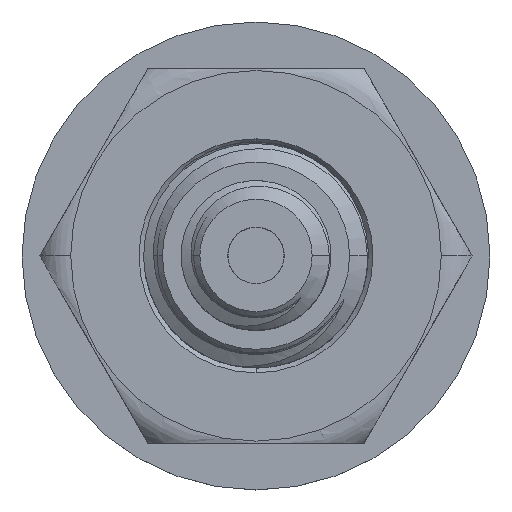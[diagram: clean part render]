
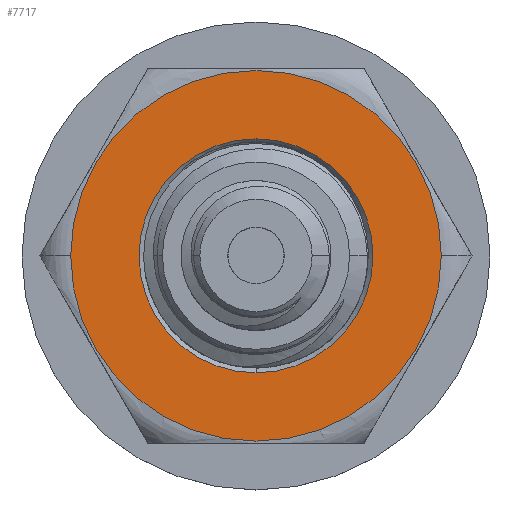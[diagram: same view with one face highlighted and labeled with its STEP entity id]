
A CAD part, top view. The second image highlights one B-rep face of the part: STEP entity #7717.
In plain terms, the highlighted planar face has unit normal (0, 0, 1) as drawn and (0, 1, 0) by its records, which use the part's own axes.
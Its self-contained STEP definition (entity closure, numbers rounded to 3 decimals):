
#16 = ORIENTED_EDGE ( 'NONE', *, *, #2490, .F. ) ;
#101 = DIRECTION ( 'NONE',  ( 0., 0., 1. ) ) ;
#678 = ORIENTED_EDGE ( 'NONE', *, *, #3512, .F. ) ;
#702 = EDGE_LOOP ( 'NONE', ( #3050, #2004 ) ) ;
#743 = PLANE ( 'NONE',  #3544 ) ;
#784 = CARTESIAN_POINT ( 'NONE',  ( 4.95, 2.5, 0. ) ) ;
#888 = DIRECTION ( 'NONE',  ( 1., 0., 0. ) ) ;
#994 = EDGE_CURVE ( 'NONE', #3875, #1866, #6393, .T. ) ;
#1384 = DIRECTION ( 'NONE',  ( 1., 0., 0. ) ) ;
#1503 = CARTESIAN_POINT ( 'NONE',  ( 0., 2.5, 3.125 ) ) ;
#1834 = CIRCLE ( 'NONE', #4297, 4.95 ) ;
#1866 = VERTEX_POINT ( 'NONE', #1503 ) ;
#2004 = ORIENTED_EDGE ( 'NONE', *, *, #994, .T. ) ;
#2146 = AXIS2_PLACEMENT_3D ( 'NONE', #2748, #8874, #6985 ) ;
#2283 = CIRCLE ( 'NONE', #4464, 4.95 ) ;
#2490 = EDGE_CURVE ( 'NONE', #3347, #5857, #1834, .T. ) ;
#2748 = CARTESIAN_POINT ( 'NONE',  ( 0., 2.5, 0. ) ) ;
#2757 = AXIS2_PLACEMENT_3D ( 'NONE', #7021, #5667, #101 ) ;
#2987 = CARTESIAN_POINT ( 'NONE',  ( 0., 2.5, 0. ) ) ;
#3050 = ORIENTED_EDGE ( 'NONE', *, *, #3895, .T. ) ;
#3347 = VERTEX_POINT ( 'NONE', #7900 ) ;
#3512 = EDGE_CURVE ( 'NONE', #5857, #3347, #2283, .T. ) ;
#3544 = AXIS2_PLACEMENT_3D ( 'NONE', #4159, #6945, #8352 ) ;
#3738 = CIRCLE ( 'NONE', #2146, 3.125 ) ;
#3875 = VERTEX_POINT ( 'NONE', #4889 ) ;
#3895 = EDGE_CURVE ( 'NONE', #1866, #3875, #3738, .T. ) ;
#4110 = CARTESIAN_POINT ( 'NONE',  ( 0., 2.5, 0. ) ) ;
#4159 = CARTESIAN_POINT ( 'NONE',  ( 0., 2.5, 0. ) ) ;
#4297 = AXIS2_PLACEMENT_3D ( 'NONE', #4110, #5594, #1384 ) ;
#4464 = AXIS2_PLACEMENT_3D ( 'NONE', #2987, #5038, #888 ) ;
#4889 = CARTESIAN_POINT ( 'NONE',  ( 0., 2.5, -3.125 ) ) ;
#4940 = FACE_BOUND ( 'NONE', #702, .T. ) ;
#5038 = DIRECTION ( 'NONE',  ( 0., -1., 0. ) ) ;
#5189 = EDGE_LOOP ( 'NONE', ( #678, #16 ) ) ;
#5594 = DIRECTION ( 'NONE',  ( 0., -1., 0. ) ) ;
#5667 = DIRECTION ( 'NONE',  ( 0., -1., 0. ) ) ;
#5857 = VERTEX_POINT ( 'NONE', #784 ) ;
#6255 = FACE_OUTER_BOUND ( 'NONE', #5189, .T. ) ;
#6393 = CIRCLE ( 'NONE', #2757, 3.125 ) ;
#6945 = DIRECTION ( 'NONE',  ( 0., 1., 0. ) ) ;
#6985 = DIRECTION ( 'NONE',  ( 0., 0., 1. ) ) ;
#7021 = CARTESIAN_POINT ( 'NONE',  ( 0., 2.5, 0. ) ) ;
#7717 = ADVANCED_FACE ( 'NONE', ( #4940, #6255 ), #743, .T. ) ;
#7900 = CARTESIAN_POINT ( 'NONE',  ( -4.95, 2.5, 0. ) ) ;
#8352 = DIRECTION ( 'NONE',  ( 0., 0., 1. ) ) ;
#8874 = DIRECTION ( 'NONE',  ( 0., -1., 0. ) ) ;
